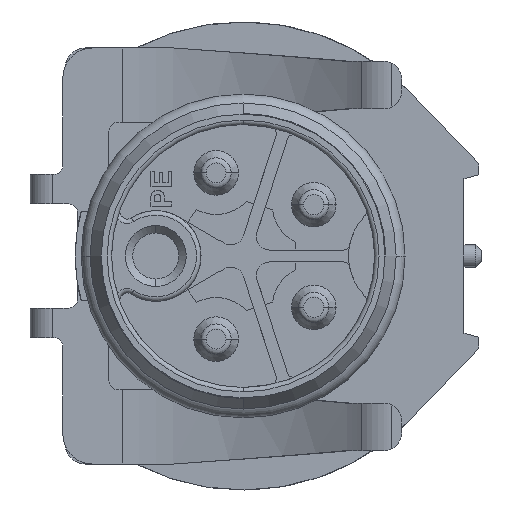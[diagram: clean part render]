
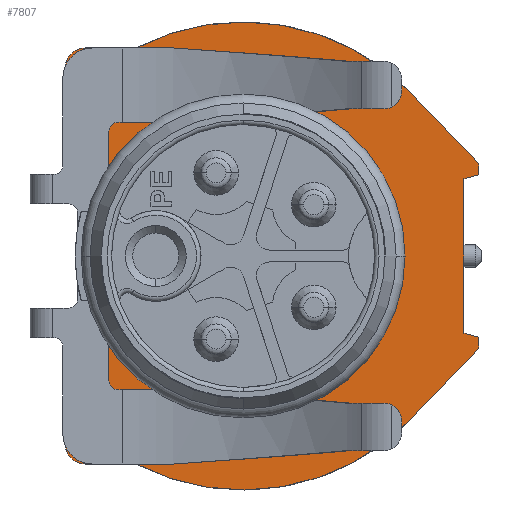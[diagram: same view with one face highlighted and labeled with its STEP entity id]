
A CAD part, left-side view. The second image highlights one B-rep face of the part: STEP entity #7807.
In plain terms, the highlighted planar face has unit normal (-1, 0, 0).
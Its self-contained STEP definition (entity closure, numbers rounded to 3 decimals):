
#596=DIRECTION('',(0.,1.,0.));
#597=VECTOR('',#596,1.692);
#598=CARTESIAN_POINT('',(19.3,3.608,7.));
#599=LINE('',#598,#597);
#612=CARTESIAN_POINT('',(19.3,0.,0.));
#613=DIRECTION('',(-1.,0.,0.));
#614=DIRECTION('',(0.,0.84,-0.543));
#615=AXIS2_PLACEMENT_3D('',#612,#613,#614);
#617=CARTESIAN_POINT('',(19.3,2.04,-2.4));
#618=DIRECTION('',(-1.,0.,0.));
#619=DIRECTION('',(0.,0.648,-0.762));
#620=AXIS2_PLACEMENT_3D('',#617,#618,#619);
#622=CARTESIAN_POINT('',(19.3,0.,0.));
#623=DIRECTION('',(-1.,0.,0.));
#624=DIRECTION('',(0.,-0.52,-0.854));
#625=AXIS2_PLACEMENT_3D('',#622,#623,#624);
#627=CARTESIAN_POINT('',(19.3,2.04,2.4));
#628=DIRECTION('',(-1.,0.,0.));
#629=DIRECTION('',(0.,0.,1.));
#630=AXIS2_PLACEMENT_3D('',#627,#628,#629);
#632=CARTESIAN_POINT('',(19.3,0.,0.));
#633=DIRECTION('',(-1.,0.,0.));
#634=DIRECTION('',(0.,0.648,0.762));
#635=AXIS2_PLACEMENT_3D('',#632,#633,#634);
#637=DIRECTION('',(0.,-0.809,-0.588));
#638=VECTOR('',#637,0.004);
#639=CARTESIAN_POINT('',(19.3,4.324,2.797));
#640=LINE('',#639,#638);
#641=DIRECTION('',(0.,1.,0.));
#642=VECTOR('',#641,1.579);
#643=CARTESIAN_POINT('',(19.3,4.321,2.795));
#644=LINE('',#643,#642);
#645=CARTESIAN_POINT('',(19.3,5.9,2.895));
#646=DIRECTION('',(1.,0.,0.));
#647=DIRECTION('',(0.,0.,-1.));
#648=AXIS2_PLACEMENT_3D('',#645,#646,#647);
#650=DIRECTION('',(0.,0.,1.));
#651=VECTOR('',#650,3.405);
#652=CARTESIAN_POINT('',(19.3,6.,2.895));
#653=LINE('',#652,#651);
#654=CARTESIAN_POINT('',(19.3,5.3,6.3));
#655=DIRECTION('',(1.,0.,0.));
#656=DIRECTION('',(0.,1.,0.));
#657=AXIS2_PLACEMENT_3D('',#654,#655,#656);
#659=CARTESIAN_POINT('',(19.3,0.,0.));
#660=DIRECTION('',(1.,0.,0.));
#661=DIRECTION('',(0.,0.458,0.889));
#662=AXIS2_PLACEMENT_3D('',#659,#660,#661);
#664=DIRECTION('',(0.,-0.691,-0.722));
#665=VECTOR('',#664,3.246);
#666=CARTESIAN_POINT('',(19.3,-5.689,5.445));
#667=LINE('',#666,#665);
#668=DIRECTION('',(0.,0.966,-0.259));
#669=VECTOR('',#668,0.518);
#670=CARTESIAN_POINT('',(19.3,-7.933,2.734));
#671=LINE('',#670,#669);
#672=DIRECTION('',(0.,-0.966,-0.259));
#673=VECTOR('',#672,0.518);
#674=CARTESIAN_POINT('',(19.3,-7.433,-2.6));
#675=LINE('',#674,#673);
#676=DIRECTION('',(0.,0.691,-0.722));
#677=VECTOR('',#676,3.246);
#678=CARTESIAN_POINT('',(19.3,-7.933,-3.1));
#679=LINE('',#678,#677);
#680=CARTESIAN_POINT('',(19.3,0.,0.));
#681=DIRECTION('',(1.,0.,0.));
#682=DIRECTION('',(0.,-0.722,-0.691));
#683=AXIS2_PLACEMENT_3D('',#680,#681,#682);
#685=CARTESIAN_POINT('',(19.3,5.3,-6.3));
#686=DIRECTION('',(1.,0.,0.));
#687=DIRECTION('',(0.,0.,-1.));
#688=AXIS2_PLACEMENT_3D('',#685,#686,#687);
#690=CARTESIAN_POINT('',(19.3,5.9,-2.895));
#691=DIRECTION('',(1.,0.,0.));
#692=DIRECTION('',(0.,1.,0.));
#693=AXIS2_PLACEMENT_3D('',#690,#691,#692);
#2131=DIRECTION('',(0.,-0.809,0.588));
#2132=VECTOR('',#2131,0.004);
#2133=CARTESIAN_POINT('',(19.3,4.324,-2.797));
#2134=LINE('',#2133,#2132);
#2139=DIRECTION('',(0.,1.,0.));
#2140=VECTOR('',#2139,1.579);
#2141=CARTESIAN_POINT('',(19.3,4.321,-2.795));
#2142=LINE('',#2141,#2140);
#2155=DIRECTION('',(0.,0.,-1.));
#2156=VECTOR('',#2155,3.405);
#2157=CARTESIAN_POINT('',(19.3,6.,-2.895));
#2158=LINE('',#2157,#2156);
#2180=DIRECTION('',(0.,-1.,0.));
#2181=VECTOR('',#2180,1.692);
#2182=CARTESIAN_POINT('',(19.3,5.3,-7.));
#2183=LINE('',#2182,#2181);
#2200=DIRECTION('',(0.,0.,1.));
#2201=VECTOR('',#2200,0.366);
#2202=CARTESIAN_POINT('',(19.3,-7.933,-3.1));
#2203=LINE('',#2202,#2201);
#2227=DIRECTION('',(0.,0.,1.));
#2228=VECTOR('',#2227,5.2);
#2229=CARTESIAN_POINT('',(19.3,-7.433,-2.6));
#2230=LINE('',#2229,#2228);
#2288=DIRECTION('',(0.,0.,1.));
#2289=VECTOR('',#2288,0.366);
#2290=CARTESIAN_POINT('',(19.3,-7.933,2.734));
#2291=LINE('',#2290,#2289);
#3043=DIRECTION('',(0.,-1.,0.));
#3044=VECTOR('',#3043,4.717);
#3045=CARTESIAN_POINT('',(19.3,2.04,4.4));
#3046=LINE('',#3045,#3044);
#3097=DIRECTION('',(0.,1.,0.));
#3098=VECTOR('',#3097,4.717);
#3099=CARTESIAN_POINT('',(19.3,-2.676,-4.4));
#3100=LINE('',#3099,#3098);
#5611=CARTESIAN_POINT('',(19.3,3.336,-3.924));
#5612=CARTESIAN_POINT('',(19.3,2.04,-4.4));
#5613=VERTEX_POINT('',#5611);
#5614=VERTEX_POINT('',#5612);
#5615=CARTESIAN_POINT('',(19.3,-2.676,-4.4));
#5616=VERTEX_POINT('',#5615);
#5617=CARTESIAN_POINT('',(19.3,-2.676,4.4));
#5618=VERTEX_POINT('',#5617);
#5619=CARTESIAN_POINT('',(19.3,2.04,4.4));
#5620=VERTEX_POINT('',#5619);
#5621=CARTESIAN_POINT('',(19.3,3.336,3.924));
#5622=VERTEX_POINT('',#5621);
#5623=CARTESIAN_POINT('',(19.3,5.9,2.795));
#5624=CARTESIAN_POINT('',(19.3,6.,2.895));
#5625=VERTEX_POINT('',#5623);
#5626=VERTEX_POINT('',#5624);
#5627=CARTESIAN_POINT('',(19.3,6.,6.3));
#5628=VERTEX_POINT('',#5627);
#5629=CARTESIAN_POINT('',(19.3,5.3,7.));
#5630=VERTEX_POINT('',#5629);
#5631=CARTESIAN_POINT('',(19.3,-5.689,5.445));
#5632=CARTESIAN_POINT('',(19.3,-7.933,3.1));
#5633=VERTEX_POINT('',#5631);
#5634=VERTEX_POINT('',#5632);
#5635=CARTESIAN_POINT('',(19.3,-7.933,2.734));
#5636=CARTESIAN_POINT('',(19.3,-7.433,2.6));
#5637=VERTEX_POINT('',#5635);
#5638=VERTEX_POINT('',#5636);
#5639=CARTESIAN_POINT('',(19.3,-7.433,-2.6));
#5640=VERTEX_POINT('',#5639);
#5641=CARTESIAN_POINT('',(19.3,-7.933,-2.734));
#5642=VERTEX_POINT('',#5641);
#5643=CARTESIAN_POINT('',(19.3,-7.933,-3.1));
#5644=CARTESIAN_POINT('',(19.3,-5.689,-5.445));
#5645=VERTEX_POINT('',#5643);
#5646=VERTEX_POINT('',#5644);
#5647=CARTESIAN_POINT('',(19.3,5.3,-7.));
#5648=CARTESIAN_POINT('',(19.3,6.,-6.3));
#5649=VERTEX_POINT('',#5647);
#5650=VERTEX_POINT('',#5648);
#5651=CARTESIAN_POINT('',(19.3,6.,-2.895));
#5652=VERTEX_POINT('',#5651);
#5653=CARTESIAN_POINT('',(19.3,5.9,-2.795));
#5654=VERTEX_POINT('',#5653);
#5705=CARTESIAN_POINT('',(19.3,3.608,-7.));
#5706=VERTEX_POINT('',#5705);
#5781=CARTESIAN_POINT('',(19.3,3.608,7.));
#5782=VERTEX_POINT('',#5781);
#6020=CARTESIAN_POINT('',(19.3,4.321,2.795));
#6022=VERTEX_POINT('',#6020);
#6026=CARTESIAN_POINT('',(19.3,4.324,-2.797));
#6027=VERTEX_POINT('',#6026);
#6028=CARTESIAN_POINT('',(19.3,4.324,2.797));
#6029=VERTEX_POINT('',#6028);
#6030=CARTESIAN_POINT('',(19.3,4.321,-2.795));
#6031=VERTEX_POINT('',#6030);
#7746=CARTESIAN_POINT('',(19.3,-0.967,0.));
#7747=DIRECTION('',(-1.,0.,0.));
#7748=DIRECTION('',(0.,0.,-1.));
#7749=AXIS2_PLACEMENT_3D('',#7746,#7747,#7748);
#7750=PLANE('',#7749);
#7752=ORIENTED_EDGE('',*,*,#7751,.T.);
#7754=ORIENTED_EDGE('',*,*,#7753,.T.);
#7756=ORIENTED_EDGE('',*,*,#7755,.F.);
#7758=ORIENTED_EDGE('',*,*,#7757,.T.);
#7760=ORIENTED_EDGE('',*,*,#7759,.F.);
#7762=ORIENTED_EDGE('',*,*,#7761,.T.);
#7764=ORIENTED_EDGE('',*,*,#7763,.T.);
#7765=ORIENTED_EDGE('',*,*,#7588,.T.);
#7767=ORIENTED_EDGE('',*,*,#7766,.T.);
#7769=ORIENTED_EDGE('',*,*,#7768,.T.);
#7771=ORIENTED_EDGE('',*,*,#7770,.T.);
#7773=ORIENTED_EDGE('',*,*,#7772,.T.);
#7774=ORIENTED_EDGE('',*,*,#7734,.F.);
#7776=ORIENTED_EDGE('',*,*,#7775,.T.);
#7778=ORIENTED_EDGE('',*,*,#7777,.T.);
#7780=ORIENTED_EDGE('',*,*,#7779,.F.);
#7782=ORIENTED_EDGE('',*,*,#7781,.T.);
#7784=ORIENTED_EDGE('',*,*,#7783,.F.);
#7786=ORIENTED_EDGE('',*,*,#7785,.T.);
#7788=ORIENTED_EDGE('',*,*,#7787,.F.);
#7790=ORIENTED_EDGE('',*,*,#7789,.T.);
#7792=ORIENTED_EDGE('',*,*,#7791,.T.);
#7794=ORIENTED_EDGE('',*,*,#7793,.F.);
#7796=ORIENTED_EDGE('',*,*,#7795,.T.);
#7798=ORIENTED_EDGE('',*,*,#7797,.F.);
#7800=ORIENTED_EDGE('',*,*,#7799,.T.);
#7802=ORIENTED_EDGE('',*,*,#7801,.F.);
#7804=ORIENTED_EDGE('',*,*,#7803,.F.);
#7805=EDGE_LOOP('',(#7752,#7754,#7756,#7758,#7760,#7762,#7764,#7765,#7767,#7769,
#7771,#7773,#7774,#7776,#7778,#7780,#7782,#7784,#7786,#7788,#7790,#7792,#7794,
#7796,#7798,#7800,#7802,#7804));
#7806=FACE_OUTER_BOUND('',#7805,.F.);
#7807=ADVANCED_FACE('',(#7806),#7750,.T.);
#616=CIRCLE('',#615,5.15);
#621=CIRCLE('',#620,2.);
#626=CIRCLE('',#625,5.15);
#631=CIRCLE('',#630,2.);
#636=CIRCLE('',#635,5.15);
#649=CIRCLE('',#648,0.1);
#658=CIRCLE('',#657,0.7);
#663=CIRCLE('',#662,7.875);
#684=CIRCLE('',#683,7.875);
#689=CIRCLE('',#688,0.7);
#694=CIRCLE('',#693,0.1);
#7588=EDGE_CURVE('',#6029,#6022,#640,.T.);
#7734=EDGE_CURVE('',#5782,#5630,#599,.T.);
#7751=EDGE_CURVE('',#6027,#5613,#616,.T.);
#7753=EDGE_CURVE('',#5613,#5614,#621,.T.);
#7755=EDGE_CURVE('',#5616,#5614,#3100,.T.);
#7757=EDGE_CURVE('',#5616,#5618,#626,.T.);
#7759=EDGE_CURVE('',#5620,#5618,#3046,.T.);
#7761=EDGE_CURVE('',#5620,#5622,#631,.T.);
#7763=EDGE_CURVE('',#5622,#6029,#636,.T.);
#7766=EDGE_CURVE('',#6022,#5625,#644,.T.);
#7768=EDGE_CURVE('',#5625,#5626,#649,.T.);
#7770=EDGE_CURVE('',#5626,#5628,#653,.T.);
#7772=EDGE_CURVE('',#5628,#5630,#658,.T.);
#7775=EDGE_CURVE('',#5782,#5633,#663,.T.);
#7777=EDGE_CURVE('',#5633,#5634,#667,.T.);
#7779=EDGE_CURVE('',#5637,#5634,#2291,.T.);
#7781=EDGE_CURVE('',#5637,#5638,#671,.T.);
#7783=EDGE_CURVE('',#5640,#5638,#2230,.T.);
#7785=EDGE_CURVE('',#5640,#5642,#675,.T.);
#7787=EDGE_CURVE('',#5645,#5642,#2203,.T.);
#7789=EDGE_CURVE('',#5645,#5646,#679,.T.);
#7791=EDGE_CURVE('',#5646,#5706,#684,.T.);
#7793=EDGE_CURVE('',#5649,#5706,#2183,.T.);
#7795=EDGE_CURVE('',#5649,#5650,#689,.T.);
#7797=EDGE_CURVE('',#5652,#5650,#2158,.T.);
#7799=EDGE_CURVE('',#5652,#5654,#694,.T.);
#7801=EDGE_CURVE('',#6031,#5654,#2142,.T.);
#7803=EDGE_CURVE('',#6027,#6031,#2134,.T.);
